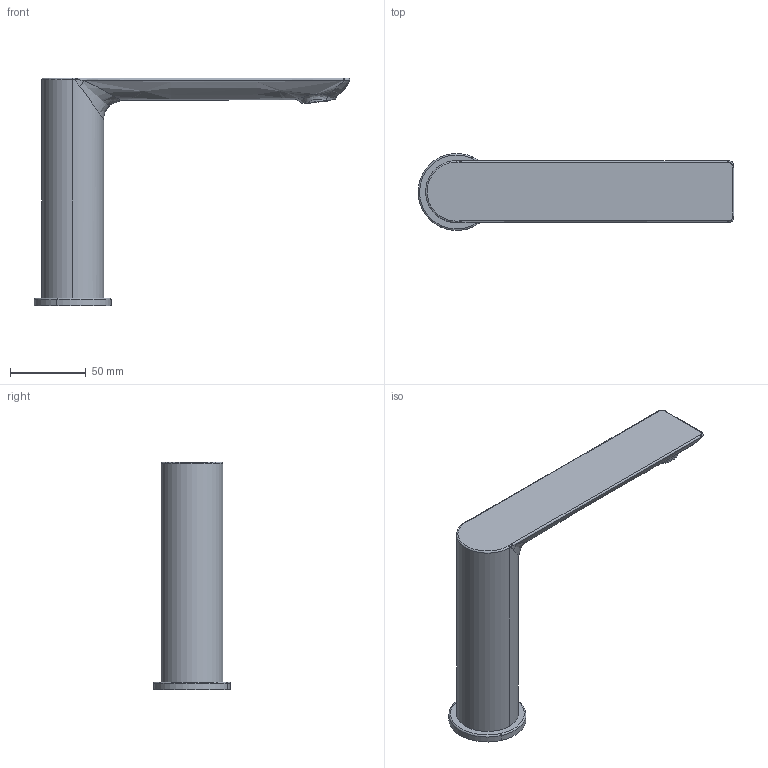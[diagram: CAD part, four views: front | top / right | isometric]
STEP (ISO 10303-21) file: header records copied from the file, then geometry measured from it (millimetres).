
FILE_DESCRIPTION (( 'STEP AP214' ), '1' );
FILE_NAME ('9921P110 x architetti.STEP', '2025-03-03T10:29:47', ( '' ), ( '' ), 'SwSTEP 2.0', 'SolidWorks 2020', '' );
FILE_SCHEMA (( 'AUTOMOTIVE_DESIGN' ));
Length unit declared in the file: millimetre
Products named in the file (3): 9921P1 x architetti; F0005899; 9921P110 x architetti
Assembly tree (2 placements, depth 2):
  9921P110 x architetti
    9921P1 x architetti
    F0005899
Bounding box: 208.78 x 50.87 x 150.5 mm (x, y, z)
Volume: 277579.8 mm3; surface area: 40996.3 mm2
Topology: 2 solids, 6 shells, 3920 faces, 10045 edges, 6492 vertices
Faces by surface type: plane 2980, cone 421, cylinder 382, bspline 135, torus 2
Entity records: 163741 total; most frequent: CARTESIAN_POINT 48749, ORIENTED_EDGE 20074, DIRECTION 12324, EDGE_CURVE 10037, VERTEX_POINT 6492, B_SPLINE_CURVE_WITH_KNOTS 5183, EDGE_LOOP 4283, AXIS2_PLACEMENT_3D 4109
